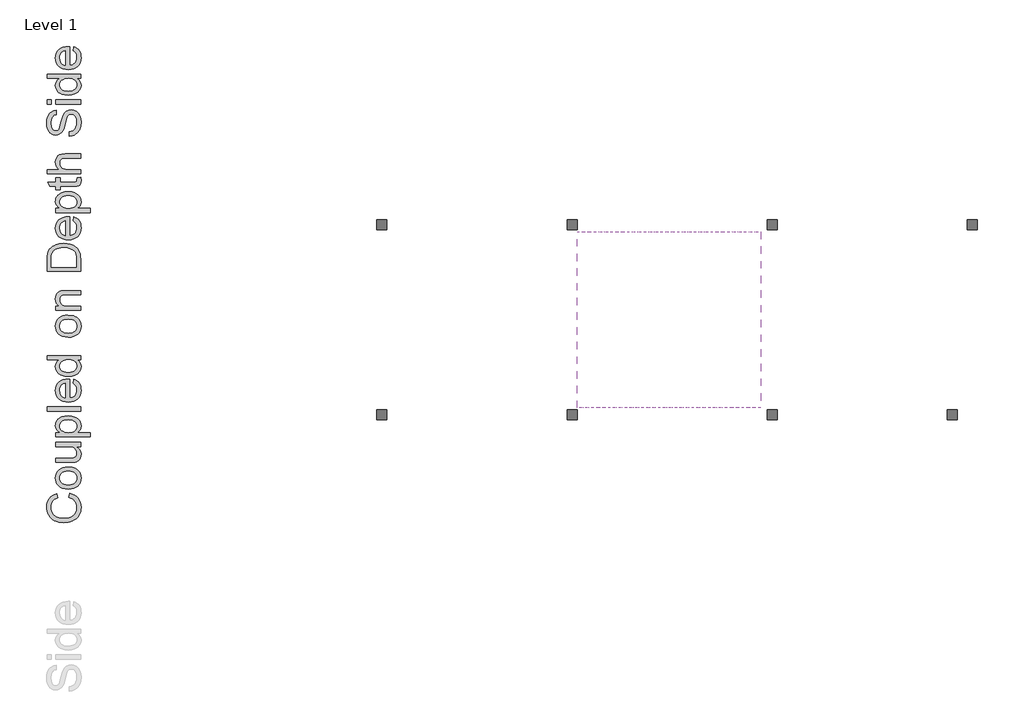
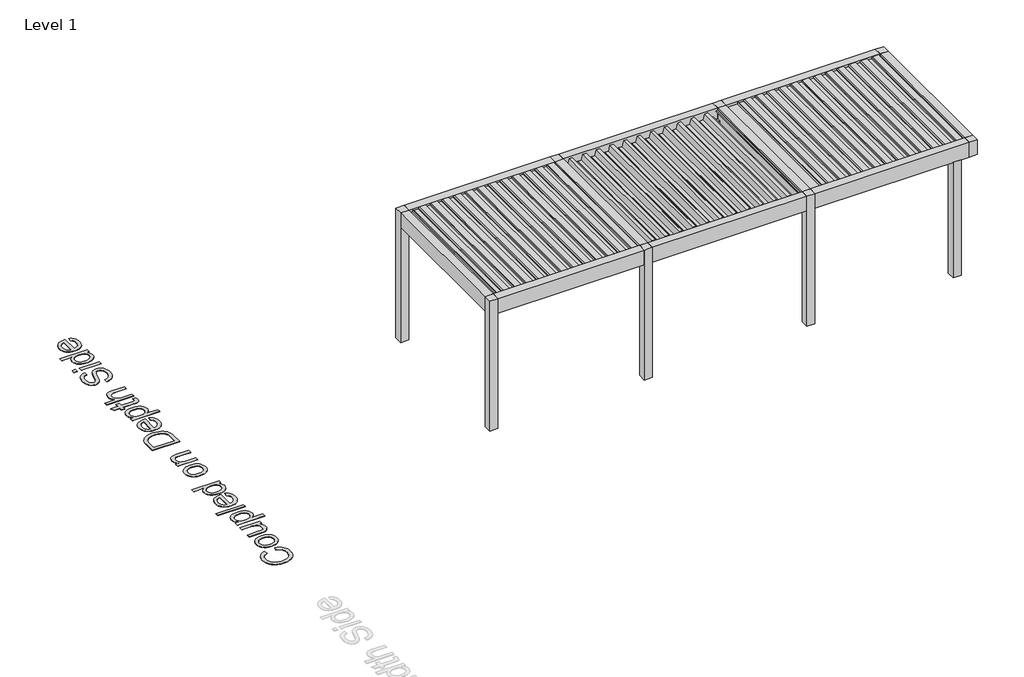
# One storey, part 47 of 80: 3 proxies.
"""IFC4 building model written with IfcOpenShell, lengths in millimetres."""

from ifc_helpers import new_model, si_unit, origin, origin_with_axes, place, context, project, spatial, polyline, outline, extrude, transform, mapped, element, save
from components import generic_models_a0ed1c80, generic_models_a3af7587

model = new_model("IFC4")

# Units and contexts
model_context = context("Model", 3, world=origin())
ifc_project = project(units=[si_unit("LENGTHUNIT", "METRE", prefix="MILLI")], contexts=[model_context])

# Site, building, storey
site = spatial("IfcSite", under=ifc_project)
building = spatial("IfcBuilding", under=site)
storey = spatial("IfcBuildingStorey", under=building, Name="Level 1", Elevation=0.0)

# Proxies
placement = place(None, origin())
generic_models_shape = generic_models_a0ed1c80(model_context)
element("IfcBuildingElementProxy", 1, Name="Renson_Amani_Fixed_Roof : Renson_Amani_Fixed_Roof", ObjectType="Renson_Amani_Fixed_Roof : Renson_Amani_Fixed_Roof", at=placement, inside=storey, context=model_context, shape_type="MappedRepresentation", body=[
    mapped(generic_models_shape, transform((81853.165057, 53708.5861401, 0.0), x_axis=(1.0, 0.0, 0.0), y_axis=(0.0, 1.0, 0.0), z_axis=(0.0, 0.0, 1.0))),
])
generic_models_2_shape = generic_models_a3af7587(model_context)
element("IfcBuildingElementProxy", 2, Name="Renson_Amani_Patio_Cover : Renson_Amani_Patio_Cover", ObjectType="Renson_Amani_Patio_Cover : Renson_Amani_Patio_Cover", at=placement, inside=storey, context=model_context, shape_type="MappedRepresentation", body=[
    mapped(generic_models_2_shape, transform((80353.165057, 55028.5861401, 0.0), x_axis=(1.0, 0.0, 0.0), y_axis=(0.0, 1.0, 0.0), z_axis=(0.0, 0.0, 1.0))),
])
element("IfcBuildingElementProxy", 3, Name="500mm Arial", ObjectType="500mm Arial", at=placement, inside=storey, context=model_context, shape_type="SweptSolid", body=[
    extrude(outline(polyline([(74234.4472638, 52366.9601072), (74250.6340716, 52429.7453011), (74289.6793805, 52417.3216195), (74323.7966034, 52400.7745939), (74352.9857405, 52380.1042243), (74377.2467916, 52355.3105107), (74396.3191738, 52326.9529402), (74409.942304, 52295.5910002), (74418.116182, 52261.2246904), (74420.8408081, 52223.8540111), (74418.779136, 52185.5674589), (74412.59412, 52151.0287045), (74402.2857599, 52120.2377479), (74387.8540558, 52093.1945891), (74369.5136055, 52069.5275141), (74347.4790069, 52048.8648087), (74321.7502598, 52031.206473), (74292.3273644, 52016.5525068), (74260.4825792, 52005.0446982), (74227.4881628, 51996.8248348), (74193.3441151, 51991.8929168), (74158.0504362, 51990.2489442), (74120.1815833, 51992.1075147), (74084.8112623, 51997.6832261), (74051.9394732, 52006.9760786), (74021.566216, 52019.9860721), (73994.1934963, 52036.4219667), (73970.3233197, 52055.9925224), (73949.9556863, 52078.6977393), (73933.0905961, 52104.5376173), (73919.8660048, 52132.6346047), (73910.4198682, 52162.1111496), (73904.7521862, 52192.9672519), (73902.8629589, 52225.2029118), (73905.3078413, 52261.1135594), (73912.6424886, 52294.0428301), (73924.8669007, 52323.9907238), (73941.9810777, 52350.9572404), (73963.5328312, 52374.497856), (73989.0699731, 52394.1680465), (74018.5925032, 52409.9678117), (74052.1004216, 52421.8971518), (74067.060956, 52359.111958), (74042.3707092, 52349.2251294), (74021.2749761, 52337.3456066), (74003.7737566, 52323.4733897), (73989.8670507, 52307.6084787), (73979.2712828, 52289.658903), (73971.7028772, 52269.5326922), (73967.1618338, 52247.2298462), (73965.6481527, 52222.7503651), (73967.3266143, 52194.5843999), (73972.3619991, 52168.824996), (73980.7543071, 52145.4721535), (73992.5035383, 52124.5258724), (74007.0808624, 52106.2505679), (74023.9574489, 52090.9106551), (74043.1332979, 52078.5061341), (74064.6084094, 52069.0370048), (74110.563002, 52057.0348547), (74157.9278088, 52053.034138), (74215.9305368, 52057.7706187), (74266.0851154, 52071.9800608), (74287.7403358, 52082.771266), (74306.4754928, 52096.1989588), (74322.2905865, 52112.2631392), (74335.1856169, 52130.9638073), (74352.3381149, 52172.6417717), (74358.0556142, 52217.6000172), (74356.1089053, 52244.8960948), (74350.2687787, 52270.0078731), (74340.5352342, 52292.935352), (74326.908272, 52313.6785316), (74309.4492056, 52331.7469025), (74288.2193488, 52346.6499554), (74263.2187015, 52358.3876903), (74234.4472638, 52366.9601072)])), origin_with_axes(), (0.0, 0.0, 1.0), 5.0),
    extrude(outline(polyline([(74228.5611519, 52492.5304949), (74180.790142, 52495.9257392), (74139.6256796, 52506.1114719), (74105.0677647, 52523.0876931), (74077.1163972, 52546.8544029), (74059.2511278, 52570.782061), (74046.4902211, 52597.1929225), (74038.8336771, 52626.0869876), (74036.2814958, 52657.4642561), (74039.3893322, 52692.1026452), (74048.7128415, 52723.4224321), (74064.2520237, 52751.4236169), (74086.0068788, 52776.1061995), (74113.2416427, 52796.2515709), (74145.2205516, 52810.6411218), (74181.9436053, 52819.2748524), (74223.410804, 52822.1527626), (74286.8397913, 52817.0637283), (74312.8751067, 52810.7024355), (74335.1243032, 52801.7966255), (74354.3423053, 52790.4574294), (74371.2840376, 52776.7959783), (74385.9495001, 52760.812272), (74398.3386927, 52742.5063106), (74415.2152792, 52701.7787081), (74420.8408081, 52657.4642561), (74417.7444679, 52622.3200292), (74408.4554476, 52590.7090024), (74392.9737469, 52562.6311755), (74371.299366, 52538.0865486), (74343.8001869, 52518.1557751), (74310.8440915, 52503.9195083), (74272.4310798, 52495.3777483), (74228.5611519, 52492.5304949)]), holes=[polyline([(74228.4385246, 52555.3156888), (74258.892256, 52557.1321061), (74285.2609644, 52562.5813582), (74307.5446499, 52571.6634449), (74325.7433123, 52584.3783664), (74339.8799444, 52599.8447386), (74349.9775387, 52617.1811776), (74356.0360954, 52636.3876834), (74358.0556142, 52657.4642561), (74356.024599, 52678.4335298), (74349.9315535, 52697.5633936), (74339.7764776, 52714.8538473), (74325.5593713, 52730.3048911), (74307.1806, 52743.0198126), (74284.5405289, 52752.1018993), (74257.639158, 52757.5511514), (74226.4764873, 52759.3675687), (74196.9884461, 52757.5396551), (74171.3095164, 52752.0559141), (74149.4396982, 52742.9163458), (74131.3789915, 52730.1209501), (74117.2423594, 52714.6124248), (74107.1447651, 52697.3334673), (74101.0862085, 52678.2840777), (74099.0666896, 52657.4642561), (74101.0785443, 52636.3876834), (74107.1141083, 52617.1811776), (74117.1733816, 52599.8447386), (74131.2563642, 52584.3783664), (74149.4013772, 52571.6634449), (74171.6467416, 52562.5813582), (74197.9924574, 52557.1321061), (74228.4385246, 52555.3156888)])]), origin_with_axes(), (0.0, 0.0, 1.0), 5.0),
    extrude(outline(polyline([(74412.9926588, 53128.2305826), (74349.5943283, 53128.2305826), (74380.7646632, 53105.5138694), (74403.0291881, 53079.0570226), (74416.3879031, 53048.8600421), (74420.8408081, 53014.9229281), (74417.7138111, 52984.3427372), (74408.3328202, 52955.8778678), (74394.2306771, 52931.996195), (74376.9402233, 52915.1655937), (74355.9402927, 52903.8378939), (74330.7097192, 52896.4649256), (74272.3391093, 52892.7861057), (74044.129645, 52892.7861057), (74044.129645, 52955.5712995), (74242.7859224, 52955.5712995), (74306.7973896, 52959.3727468), (74328.1498737, 52968.5238114), (74344.3826667, 52984.2047815), (74354.6373773, 53005.3733246), (74358.0556142, 53030.9871085), (74354.5607353, 53058.0724204), (74344.0760984, 53083.4102928), (74327.5673939, 53104.3029245), (74306.0003119, 53118.052514), (74276.4624534, 53125.6860654), (74236.0414192, 53128.2305826), (74044.129645, 53128.2305826), (74044.129645, 53191.0157764), (74412.9926588, 53191.0157764), (74412.9926588, 53128.2305826)])), origin_with_axes(), (0.0, 0.0, 1.0), 5.0),
    extrude(outline(polyline([(74554.259345, 53277.345418), (74044.129645, 53277.345418), (74044.129645, 53340.1306118), (74105.6885655, 53340.1306118), (74075.3229725, 53360.6093762), (74053.6332632, 53383.5406872), (74040.6194376, 53410.2734455), (74036.2814958, 53442.1565518), (74037.799009, 53464.0531947), (74042.3515487, 53484.6162654), (74049.9391148, 53503.8457639), (74060.5617075, 53521.7416901), (74073.943415, 53537.9131695), (74089.8083261, 53551.9693274), (74128.9877586, 53573.7356787), (74175.2489195, 53586.8874601), (74225.7407233, 53591.2713872), (74279.4361662, 53586.3203087), (74327.460095, 53571.4670731), (74348.735937, 53560.4459417), (74367.3752914, 53547.1868614), (74383.3781582, 53531.6898324), (74396.7445374, 53513.9548545), (74414.8167404, 53475.2506029), (74420.8408081, 53434.5536572), (74416.8094345, 53405.690249), (74404.7153139, 53379.9231809), (74386.4591699, 53357.8655897), (74363.9417261, 53340.1306118), (74554.259345, 53340.1306118), (74554.259345, 53277.345418)]), holes=[polyline([(74231.5042079, 53340.1306118), (74261.762502, 53341.8282339), (74287.7901531, 53346.9211003), (74309.5871614, 53355.4092109), (74327.1535266, 53367.2925658), (74340.6731899, 53381.5978104), (74350.3300923, 53397.3515905), (74356.1242337, 53414.5539058), (74358.0556142, 53433.2047566), (74356.0552559, 53452.1238546), (74350.0541808, 53469.6404025), (74340.0523891, 53485.7544003), (74326.0498806, 53500.465848), (74307.8473861, 53512.7247491), (74285.245636, 53521.481107), (74258.2446304, 53526.7349217), (74226.8443693, 53528.4861933), (74196.8466583, 53526.7770749), (74170.8649923, 53521.6497196), (74148.8993715, 53513.1041274), (74130.9497959, 53501.1402984), (74117.0009369, 53486.8005648), (74107.0374662, 53471.1272589), (74101.0593838, 53454.1203808), (74099.0666896, 53435.7799305), (74101.1858432, 53417.4969618), (74107.5433039, 53400.2946464), (74118.1390718, 53384.1729844), (74132.9731468, 53369.1319758), (74151.8462596, 53356.443879), (74174.5591407, 53347.3809528), (74201.1117901, 53341.943197), (74231.5042079, 53340.1306118)])]), origin_with_axes(), (0.0, 0.0, 1.0), 5.0),
    extrude(outline(polyline([(74412.9926588, 53661.9047302), (73910.7111081, 53661.9047302), (73910.7111081, 53724.6899241), (74412.9926588, 53724.6899241), (74412.9926588, 53661.9047302)])), origin_with_axes(), (0.0, 0.0, 1.0), 5.0),
    extrude(outline(polyline([(74303.1185696, 54077.1208755), (74310.9667188, 54138.679796), (74335.6224767, 54129.2413236), (74357.3505071, 54116.4995774), (74376.1508099, 54100.4545574), (74392.0233851, 54081.1062638), (74404.6310077, 54058.6539657), (74413.6364523, 54033.2969328), (74419.0397191, 54005.0351649), (74420.8408081, 53973.8686622), (74417.7329716, 53934.9114917), (74408.4094623, 53900.2002926), (74392.8702801, 53869.7350649), (74371.115425, 53843.5158085), (74343.7503696, 53822.4315717), (74311.3805861, 53807.3714025), (74274.0060746, 53798.335301), (74231.6268352, 53795.3232672), (74187.8105567, 53798.3659578), (74149.1906115, 53807.4940298), (74115.7669994, 53822.7074832), (74087.5397204, 53844.0063179), (74065.1142471, 53870.1565964), (74049.0960519, 53899.9243811), (74039.4851348, 53933.3096722), (74036.2814958, 53970.3124695), (74039.4774706, 54006.1234825), (74049.0653951, 54038.5085944), (74065.0452693, 54067.4678052), (74087.4170931, 54093.0011149), (74115.5830584, 54113.8439292), (74148.9453568, 54128.7316537), (74187.5039884, 54137.6642884), (74231.2589532, 54140.6418333), (74248.181525, 54140.2739513), (74248.181525, 53858.108461), (74273.2358217, 53861.7451278), (74295.1784499, 53868.9763083), (74314.0094095, 53879.8020024), (74329.7287006, 53894.2222102), (74342.1217253, 53911.439854), (74350.9738858, 53930.6578561), (74356.2851821, 53951.8762166), (74358.0556142, 53975.0949355), (74354.7753331, 54008.5108834), (74344.9344897, 54036.653856), (74327.9199474, 54059.5238534), (74303.1185696, 54077.1208755)]), holes=[polyline([(74185.3963312, 53858.108461), (74185.3963312, 54077.8566395), (74152.2256379, 54069.3646967), (74128.4972492, 54052.7180365), (74115.6213794, 54035.5961953), (74106.4243295, 54016.1137779), (74100.9060996, 53994.2707845), (74099.0666896, 53970.0672149), (74104.9374731, 53927.745457), (74112.2759525, 53909.3321967), (74122.5498236, 53892.7506822), (74135.2839056, 53878.8363122), (74150.0030175, 53868.4244853), (74166.7071594, 53861.5152016), (74185.3963312, 53858.108461)])]), origin_with_axes(), (0.0, 0.0, 1.0), 5.0),
    extrude(outline(polyline([(74412.9926588, 54431.0233548), (74353.7636576, 54431.0233548), (74383.1099109, 54412.2383805), (74404.0715205, 54389.4833462), (74416.6484862, 54362.7582521), (74420.8408081, 54332.0630981), (74414.7707551, 54291.4734513), (74396.5605964, 54254.3173698), (74367.4825903, 54222.8634592), (74328.8089956, 54199.3803252), (74282.1033106, 54184.7570159), (74228.9290339, 54179.8825795), (74176.4138791, 54184.3738055), (74128.9877586, 54197.8474836), (74107.8575365, 54207.94891), (74089.3484736, 54220.2882853), (74073.4605699, 54234.8656093), (74060.1938255, 54251.6808822), (74042.2595782, 54289.6493698), (74036.2814958, 54331.8178435), (74040.558124, 54362.5359901), (74053.3880085, 54389.697944), (74073.0543669, 54412.7212256), (74097.8404163, 54431.0233548), (73910.7111081, 54431.0233548), (73910.7111081, 54493.8085487), (74412.9926588, 54493.8085487), (74412.9926588, 54431.0233548)]), holes=[polyline([(74228.6837793, 54242.6677733), (74259.1298465, 54244.4382054), (74285.4755623, 54249.7495017), (74307.7209267, 54258.6016622), (74325.8659396, 54270.9946869), (74339.9489223, 54285.794273), (74350.0081956, 54301.8661177), (74356.0437596, 54319.2102209), (74358.0556142, 54337.8265827), (74356.1357301, 54356.5310829), (74350.3760776, 54373.7717193), (74340.7766568, 54389.548492), (74327.3374676, 54403.8614009), (74309.9512112, 54415.7447557), (74288.5105887, 54424.2328663), (74263.0156, 54429.3257327), (74233.4662452, 54431.0233548), (74201.069637, 54429.2950759), (74173.2868821, 54424.110239), (74150.1179807, 54415.4688442), (74131.5629325, 54403.3708915), (74117.3458263, 54388.7437501), (74107.1907503, 54372.5147892), (74101.0977048, 54354.6840087), (74099.0666896, 54335.2514088), (74101.0172306, 54316.267165), (74106.8688536, 54298.9230617), (74116.6215586, 54283.2190991), (74130.2753455, 54269.155277), (74148.1291186, 54257.5669941), (74170.4817819, 54249.2896492), (74197.3333355, 54244.3232423), (74228.6837793, 54242.6677733)])]), origin_with_axes(), (0.0, 0.0, 1.0), 5.0),
    extrude(outline(polyline([(74228.5611519, 54768.4937717), (74180.790142, 54771.889016), (74139.6256796, 54782.0747487), (74105.0677647, 54799.05097), (74077.1163972, 54822.8176797), (74059.2511278, 54846.7453378), (74046.4902211, 54873.1561994), (74038.8336771, 54902.0502644), (74036.2814958, 54933.4275329), (74039.3893322, 54968.065922), (74048.7128415, 54999.385709), (74064.2520237, 55027.3868937), (74086.0068788, 55052.0694764), (74113.2416427, 55072.2148477), (74145.2205516, 55086.6043987), (74181.9436053, 55095.2381292), (74223.410804, 55098.1160394), (74286.8397913, 55093.0270052), (74312.8751067, 55086.6657123), (74335.1243032, 55077.7599024), (74354.3423053, 55066.4207063), (74371.2840376, 55052.7592551), (74385.9495001, 55036.7755488), (74398.3386927, 55018.4695875), (74415.2152792, 54977.7419849), (74420.8408081, 54933.4275329), (74417.7444679, 54898.2833061), (74408.4554476, 54866.6722792), (74392.9737469, 54838.5944523), (74371.299366, 54814.0498255), (74343.8001869, 54794.119052), (74310.8440915, 54779.8827852), (74272.4310798, 54771.3410251), (74228.5611519, 54768.4937717)]), holes=[polyline([(74228.4385246, 54831.2789656), (74258.892256, 54833.0953829), (74285.2609644, 54838.544635), (74307.5446499, 54847.6267217), (74325.7433123, 54860.3416432), (74339.8799444, 54875.8080154), (74349.9775387, 54893.1444544), (74356.0360954, 54912.3509603), (74358.0556142, 54933.4275329), (74356.024599, 54954.3968066), (74349.9315535, 54973.5266704), (74339.7764776, 54990.8171242), (74325.5593713, 55006.268168), (74307.1806, 55018.9830894), (74284.5405289, 55028.0651762), (74257.639158, 55033.5144282), (74226.4764873, 55035.3308456), (74196.9884461, 55033.5029319), (74171.3095164, 55028.0191909), (74149.4396982, 55018.8796226), (74131.3789915, 55006.084227), (74117.2423594, 54990.5757016), (74107.1447651, 54973.2967441), (74101.0862085, 54954.2473546), (74099.0666896, 54933.4275329), (74101.0785443, 54912.3509603), (74107.1141083, 54893.1444544), (74117.1733816, 54875.8080154), (74131.2563642, 54860.3416432), (74149.4013772, 54847.6267217), (74171.6467416, 54838.544635), (74197.9924574, 54833.0953829), (74228.4385246, 54831.2789656)])]), origin_with_axes(), (0.0, 0.0, 1.0), 5.0),
    extrude(outline(polyline([(74412.9926588, 55168.7493825), (74044.129645, 55168.7493825), (74044.129645, 55231.5345763), (74095.6331243, 55231.5345763), (74069.6667868, 55253.346913), (74051.1194029, 55279.5431767), (74039.9909726, 55310.1233676), (74036.2814958, 55345.0874855), (74039.270537, 55376.0355584), (74048.2376606, 55404.3778004), (74062.0638923, 55428.0142186), (74079.6302575, 55444.8448199), (74100.8907712, 55456.2644901), (74125.7994479, 55463.6681153), (74186.4999771, 55466.9790532), (74412.9926588, 55466.9790532), (74412.9926588, 55404.1938594), (74194.961263, 55404.1938594), (74162.495677, 55402.3851063), (74139.4110818, 55396.9588468), (74122.8717204, 55386.9493909), (74110.0418358, 55371.3910482), (74101.8104762, 55351.4487783), (74099.0666896, 55328.2875411), (74100.6071955, 55309.2228231), (74105.228713, 55291.51467), (74112.9312423, 55275.1630817), (74123.7147833, 55260.1680583), (74138.8056093, 55247.6409099), (74159.4299937, 55238.6929468), (74185.5879364, 55233.324169), (74217.2794374, 55231.5345763), (74412.9926588, 55231.5345763), (74412.9926588, 55168.7493825)])), origin_with_axes(), (0.0, 0.0, 1.0), 5.0),
    extrude(outline(polyline([(74412.9926588, 55757.3605748), (73910.7111081, 55757.3605748), (73910.7111081, 55930.6329945), (73912.5198612, 55982.4123853), (73917.9461207, 56020.273574), (73931.8949796, 56060.3113978), (73953.8759289, 56094.0952277), (73971.840833, 56112.7115895), (73992.1356564, 56128.8294194), (74014.7603991, 56142.4487174), (74039.7150611, 56153.5694836), (74095.694438, 56168.3767339), (74159.1540822, 56173.312484), (74213.0641229, 56169.9708892), (74260.5055718, 56159.9461048), (74300.8959492, 56144.679002), (74333.6527752, 56125.6104519), (74359.5118138, 56103.6601596), (74379.2088289, 56079.7478299), (74393.8168098, 56052.294636), (74404.4087456, 56019.721751), (74410.8466805, 55981.9678612), (74412.9926588, 55938.9716531), (74412.9926588, 55757.3605748)]), holes=[polyline([(74350.207465, 55820.1457686), (74350.207465, 55931.2461312), (74347.9388594, 55977.2007237), (74341.1330424, 56012.0575428), (74330.1885531, 56038.3611054), (74315.5039301, 56058.6559288), (74288.3266477, 56080.4682655), (74253.1479319, 56096.8543427), (74209.8144986, 56107.1090533), (74158.1730635, 56110.5272901), (74121.7220892, 56108.8526606), (74089.7470124, 56103.8287721), (74062.2478333, 56095.4556247), (74039.2245517, 56083.7332182), (74020.1560017, 56069.6119145), (74004.5210169, 56054.0420755), (73992.3195973, 56037.0237011), (73983.5517431, 56018.5567913), (73976.0101622, 55982.4430422), (73973.4963019, 55929.5293485), (73973.4963019, 55820.1457686), (74350.207465, 55820.1457686)])]), origin_with_axes(), (0.0, 0.0, 1.0), 5.0),
    extrude(outline(polyline([(74303.1185696, 56510.0471369), (74310.9667188, 56571.6060574), (74335.6224767, 56562.167585), (74357.3505071, 56549.4258388), (74376.1508099, 56533.3808189), (74392.0233851, 56514.0325252), (74404.6310077, 56491.5802272), (74413.6364523, 56466.2231942), (74419.0397191, 56437.9614264), (74420.8408081, 56406.7949236), (74417.7329716, 56367.8377531), (74408.4094623, 56333.1265541), (74392.8702801, 56302.6613263), (74371.115425, 56276.44207), (74343.7503696, 56255.3578331), (74311.3805861, 56240.2976639), (74274.0060746, 56231.2615624), (74231.6268352, 56228.2495286), (74187.8105567, 56231.2922193), (74149.1906115, 56240.4202913), (74115.7669994, 56255.6337446), (74087.5397204, 56276.9325793), (74065.1142471, 56303.0828578), (74049.0960519, 56332.8506426), (74039.4851348, 56366.2359336), (74036.2814958, 56403.238731), (74039.4774706, 56439.0497439), (74049.0653951, 56471.4348558), (74065.0452693, 56500.3940666), (74087.4170931, 56525.9273764), (74115.5830584, 56546.7701907), (74148.9453568, 56561.6579151), (74187.5039884, 56570.5905498), (74231.2589532, 56573.5680947), (74248.181525, 56573.2002127), (74248.181525, 56291.0347224), (74273.2358217, 56294.6713893), (74295.1784499, 56301.9025697), (74314.0094095, 56312.7282638), (74329.7287006, 56327.1484716), (74342.1217253, 56344.3661154), (74350.9738858, 56363.5841176), (74356.2851821, 56384.8024781), (74358.0556142, 56408.0211969), (74354.7753331, 56441.4371448), (74344.9344897, 56469.5801174), (74327.9199474, 56492.4501148), (74303.1185696, 56510.0471369)]), holes=[polyline([(74185.3963312, 56291.0347224), (74185.3963312, 56510.7829009), (74152.2256379, 56502.2909582), (74128.4972492, 56485.6442979), (74115.6213794, 56468.5224567), (74106.4243295, 56449.0400394), (74100.9060996, 56427.1970459), (74099.0666896, 56402.9934763), (74104.9374731, 56360.6717184), (74112.2759525, 56342.2584582), (74122.5498236, 56325.6769437), (74135.2839056, 56311.7625736), (74150.0030175, 56301.3507467), (74166.7071594, 56294.441463), (74185.3963312, 56291.0347224)])]), origin_with_axes(), (0.0, 0.0, 1.0), 5.0),
    extrude(outline(polyline([(74554.259345, 56636.3532886), (74044.129645, 56636.3532886), (74044.129645, 56699.1384824), (74105.6885655, 56699.1384824), (74075.3229725, 56719.6172468), (74053.6332632, 56742.5485579), (74040.6194376, 56769.2813162), (74036.2814958, 56801.1644224), (74037.799009, 56823.0610653), (74042.3515487, 56843.624136), (74049.9391148, 56862.8536345), (74060.5617075, 56880.7495607), (74073.943415, 56896.9210401), (74089.8083261, 56910.977198), (74128.9877586, 56932.7435494), (74175.2489195, 56945.8953307), (74225.7407233, 56950.2792578), (74279.4361662, 56945.3281793), (74327.460095, 56930.4749437), (74348.735937, 56919.4538123), (74367.3752914, 56906.194732), (74383.3781582, 56890.697703), (74396.7445374, 56872.9627251), (74414.8167404, 56834.2584736), (74420.8408081, 56793.5615279), (74416.8094345, 56764.6981197), (74404.7153139, 56738.9310516), (74386.4591699, 56716.8734603), (74363.9417261, 56699.1384824), (74554.259345, 56699.1384824), (74554.259345, 56636.3532886)]), holes=[polyline([(74231.5042079, 56699.1384824), (74261.762502, 56700.8361046), (74287.7901531, 56705.9289709), (74309.5871614, 56714.4170815), (74327.1535266, 56726.3004364), (74340.6731899, 56740.6056811), (74350.3300923, 56756.3594611), (74356.1242337, 56773.5617765), (74358.0556142, 56792.2126272), (74356.0552559, 56811.1317252), (74350.0541808, 56828.6482731), (74340.0523891, 56844.762271), (74326.0498806, 56859.4737187), (74307.8473861, 56871.7326197), (74285.245636, 56880.4889776), (74258.2446304, 56885.7427924), (74226.8443693, 56887.494064), (74196.8466583, 56885.7849455), (74170.8649923, 56880.6575902), (74148.8993715, 56872.111998), (74130.9497959, 56860.148169), (74117.0009369, 56845.8084354), (74107.0374662, 56830.1351295), (74101.0593838, 56813.1282515), (74099.0666896, 56794.7878012), (74101.1858432, 56776.5048324), (74107.5433039, 56759.3025171), (74118.1390718, 56743.180855), (74132.9731468, 56728.1398464), (74151.8462596, 56715.4517497), (74174.5591407, 56706.3888234), (74201.1117901, 56700.9510677), (74231.5042079, 56699.1384824)])]), origin_with_axes(), (0.0, 0.0, 1.0), 5.0),
    extrude(outline(polyline([(74360.6307882, 57154.3311378), (74414.8320688, 57162.179287), (74420.8408081, 57115.213019), (74418.2349773, 57085.0773522), (74410.4174849, 57062.6058937), (74398.3693495, 57046.7256542), (74383.0715899, 57036.3636447), (74356.7986841, 57030.6614737), (74311.8251102, 57028.7607501), (74106.9148388, 57028.7607501), (74106.9148388, 56981.6718547), (74044.129645, 56981.6718547), (74044.129645, 57028.7607501), (73954.4890655, 57028.7607501), (73917.5782387, 57091.5459439), (74044.129645, 57091.5459439), (74044.129645, 57154.3311378), (74106.9148388, 57154.3311378), (74106.9148388, 57091.5459439), (74309.9857002, 57091.5459439), (74342.3593158, 57094.8568819), (74353.8249713, 57105.5867734), (74358.0556142, 57126.9852428), (74360.6307882, 57154.3311378)])), origin_with_axes(), (0.0, 0.0, 1.0), 5.0),
    extrude(outline(polyline([(74412.9926588, 57217.1163316), (73910.7111081, 57217.1163316), (73910.7111081, 57279.9015255), (74095.3878697, 57279.9015255), (74069.5288311, 57302.9631281), (74051.0580892, 57328.8604877), (74039.9756441, 57357.5936043), (74036.2814958, 57389.162478), (74040.3128693, 57427.0849804), (74052.4069899, 57459.6731938), (74071.6134957, 57485.332963), (74096.982025, 57502.4701326), (74131.838844, 57512.1270349), (74179.5102192, 57515.3460024), (74412.9926588, 57515.3460024), (74412.9926588, 57452.5608085), (74186.0094678, 57452.5608085), (74146.707408, 57447.5637448), (74131.7008883, 57441.3174151), (74119.7907087, 57432.5725535), (74110.7239503, 57421.5360936), (74104.2476944, 57408.4149691), (74099.0666896, 57375.9187262), (74102.5615686, 57349.3852373), (74113.0462054, 57324.4765606), (74129.5089247, 57303.844512), (74150.9380509, 57290.1409077), (74179.4182487, 57282.461371), (74217.0341827, 57279.9015255), (74412.9926588, 57279.9015255), (74412.9926588, 57217.1163316)])), origin_with_axes(), (0.0, 0.0, 1.0), 5.0),
    extrude(outline(polyline([(74240.3333758, 57782.1830762), (74240.3333758, 57844.9682701), (74275.1748664, 57852.1726258), (74303.1798833, 57865.2017798), (74325.4060871, 57885.52726), (74342.9111388, 57914.6205945), (74354.2694954, 57950.1825207), (74358.0556142, 57989.9137762), (74355.1892003, 58024.8932225), (74346.5899587, 58055.5193986), (74332.9783249, 58080.3361049), (74315.0747345, 58097.8871418), (74294.519328, 58108.3257934), (74272.952246, 58111.8053439), (74251.936987, 58109.1995131), (74233.7728135, 58101.3820207), (74218.2757845, 58085.5017813), (74205.2619589, 58058.7077093), (74181.2883155, 57967.2890335), (74165.4234045, 57907.278283), (74150.3249143, 57868.8805998), (74129.2023564, 57837.6259586), (74103.6039009, 57815.4763968), (74074.0813708, 57802.2786302), (74041.186589, 57797.8793747), (74004.4137179, 57803.3209625), (73970.1240503, 57819.6457261), (73954.5963644, 57831.7819998), (73941.0613727, 57846.4244696), (73919.9694716, 57883.2279976), (73907.139587, 57927.4044938), (73902.8629589, 57976.3021423), (73907.3388565, 58029.2771497), (73920.7665493, 58075.630281), (73942.8701258, 58113.7060675), (73957.0719037, 58129.0191556), (73973.3736746, 58141.8490402), (74010.3764719, 58159.6606601), (74051.9777942, 58166.7423885), (74051.9777942, 58103.9571947), (74031.9435539, 58099.7572086), (74014.5151444, 58092.4302255), (73999.6925657, 58081.9762455), (73987.4758177, 58068.3952685), (73977.9262143, 58051.4343757), (73971.105069, 58030.8406481), (73965.6481527, 57978.754689), (73971.0437553, 57925.4424565), (73977.7882585, 57905.0633268), (73987.2305631, 57888.8688548), (73998.5812555, 57876.5294796), (74011.0509223, 57867.7156401), (74024.6395635, 57862.4273364), (74039.3471791, 57860.6645685), (74063.4741066, 57865.6616323), (74082.8798818, 57880.6528236), (74091.5097803, 57894.4177416), (74100.2316493, 57916.0921225), (74117.9512987, 57983.1692729), (74134.7819, 58052.3924017), (74149.466523, 58094.2696355), (74172.2445498, 58130.0614879), (74200.3568656, 58155.0314783), (74233.496902, 58169.7007729), (74271.3580907, 58174.5905377), (74310.0623423, 58168.9650089), (74346.4673314, 58152.0884224), (74377.7986146, 58124.6505569), (74401.2817487, 58087.3411912), (74415.9510432, 58042.4749162), (74420.8408081, 57992.3663228), (74415.5678328, 57930.8533875), (74408.9766137, 57904.1781108), (74399.748907, 57880.2236279), (74387.8693842, 57858.8443191), (74373.322717, 57839.8945642), (74356.1089053, 57823.3743634), (74336.2279492, 57809.2837165), (74314.323642, 57797.9330241), (74291.0397774, 57789.6326866), (74266.3763553, 57784.382704), (74240.3333758, 57782.1830762)])), origin_with_axes(), (0.0, 0.0, 1.0), 5.0),
    extrude(outline(polyline([(73973.4963019, 58260.9201793), (73910.7111081, 58260.9201793), (73910.7111081, 58323.7053731), (73973.4963019, 58323.7053731), (73973.4963019, 58260.9201793)])), origin_with_axes(), (0.0, 0.0, 1.0), 5.0),
    extrude(outline(polyline([(74412.9926588, 58260.9201793), (74044.129645, 58260.9201793), (74044.129645, 58323.7053731), (74412.9926588, 58323.7053731), (74412.9926588, 58260.9201793)])), origin_with_axes(), (0.0, 0.0, 1.0), 5.0),
    extrude(outline(polyline([(74412.9926588, 58645.4794916), (74353.7636576, 58645.4794916), (74383.1099109, 58626.6945172), (74404.0715205, 58603.939483), (74416.6484862, 58577.2143888), (74420.8408081, 58546.5192349), (74414.7707551, 58505.9295881), (74396.5605964, 58468.7735066), (74367.4825903, 58437.319596), (74328.8089956, 58413.8364619), (74282.1033106, 58399.2131526), (74228.9290339, 58394.3387162), (74176.4138791, 58398.8299422), (74128.9877586, 58412.3036203), (74107.8575365, 58422.4050468), (74089.3484736, 58434.744422), (74073.4605699, 58449.3217461), (74060.1938255, 58466.1370189), (74042.2595782, 58504.1055065), (74036.2814958, 58546.2739802), (74040.558124, 58576.9921268), (74053.3880085, 58604.1540808), (74073.0543669, 58627.1773623), (74097.8404163, 58645.4794916), (73910.7111081, 58645.4794916), (73910.7111081, 58708.2646854), (74412.9926588, 58708.2646854), (74412.9926588, 58645.4794916)]), holes=[polyline([(74228.6837793, 58457.12391), (74259.1298465, 58458.8943421), (74285.4755623, 58464.2056385), (74307.7209267, 58473.057799), (74325.8659396, 58485.4508237), (74339.9489223, 58500.2504098), (74350.0081956, 58516.3222544), (74356.0437596, 58533.6663577), (74358.0556142, 58552.2827195), (74356.1357301, 58570.9872197), (74350.3760776, 58588.2278561), (74340.7766568, 58604.0046287), (74327.3374676, 58618.3175376), (74309.9512112, 58630.2008925), (74288.5105887, 58638.6890031), (74263.0156, 58643.7818695), (74233.4662452, 58645.4794916), (74201.069637, 58643.7512126), (74173.2868821, 58638.5663757), (74150.1179807, 58629.924981), (74131.5629325, 58617.8270283), (74117.3458263, 58603.1998869), (74107.1907503, 58586.9709259), (74101.0977048, 58569.1401455), (74099.0666896, 58549.7075455), (74101.0172306, 58530.7233017), (74106.8688536, 58513.3791985), (74116.6215586, 58497.6752358), (74130.2753455, 58483.6114137), (74148.1291186, 58472.0231308), (74170.4817819, 58463.745786), (74197.3333355, 58458.779379), (74228.6837793, 58457.12391)])]), origin_with_axes(), (0.0, 0.0, 1.0), 5.0),
    extrude(outline(polyline([(74303.1185696, 59060.6956368), (74310.9667188, 59122.2545573), (74335.6224767, 59112.8160849), (74357.3505071, 59100.0743387), (74376.1508099, 59084.0293188), (74392.0233851, 59064.6810251), (74404.6310077, 59042.2287271), (74413.6364523, 59016.8716941), (74419.0397191, 58988.6099263), (74420.8408081, 58957.4434235), (74417.7329716, 58918.486253), (74408.4094623, 58883.775054), (74392.8702801, 58853.3098262), (74371.115425, 58827.0905699), (74343.7503696, 58806.006333), (74311.3805861, 58790.9461638), (74274.0060746, 58781.9100623), (74231.6268352, 58778.8980285), (74187.8105567, 58781.9407192), (74149.1906115, 58791.0687912), (74115.7669994, 58806.2822445), (74087.5397204, 58827.5810792), (74065.1142471, 58853.7313577), (74049.0960519, 58883.4991425), (74039.4851348, 58916.8844335), (74036.2814958, 58953.8872309), (74039.4774706, 58989.6982438), (74049.0653951, 59022.0833557), (74065.0452693, 59051.0425665), (74087.4170931, 59076.5758763), (74115.5830584, 59097.4186905), (74148.9453568, 59112.306415), (74187.5039884, 59121.2390497), (74231.2589532, 59124.2165946), (74248.181525, 59123.8487126), (74248.181525, 58841.6832223), (74273.2358217, 58845.3198891), (74295.1784499, 58852.5510696), (74314.0094095, 58863.3767637), (74329.7287006, 58877.7969715), (74342.1217253, 58895.0146153), (74350.9738858, 58914.2326175), (74356.2851821, 58935.450978), (74358.0556142, 58958.6696968), (74354.7753331, 58992.0856447), (74344.9344897, 59020.2286173), (74327.9199474, 59043.0986147), (74303.1185696, 59060.6956368)]), holes=[polyline([(74185.3963312, 58841.6832223), (74185.3963312, 59061.4314008), (74152.2256379, 59052.9394581), (74128.4972492, 59036.2927978), (74115.6213794, 59019.1709566), (74106.4243295, 58999.6885393), (74100.9060996, 58977.8455458), (74099.0666896, 58953.6419762), (74104.9374731, 58911.3202183), (74112.2759525, 58892.9069581), (74122.5498236, 58876.3254435), (74135.2839056, 58862.4110735), (74150.0030175, 58851.9992466), (74166.7071594, 58845.0899629), (74185.3963312, 58841.6832223)])]), origin_with_axes(), (0.0, 0.0, 1.0), 5.0),
])

save(model, "model.ifc")
